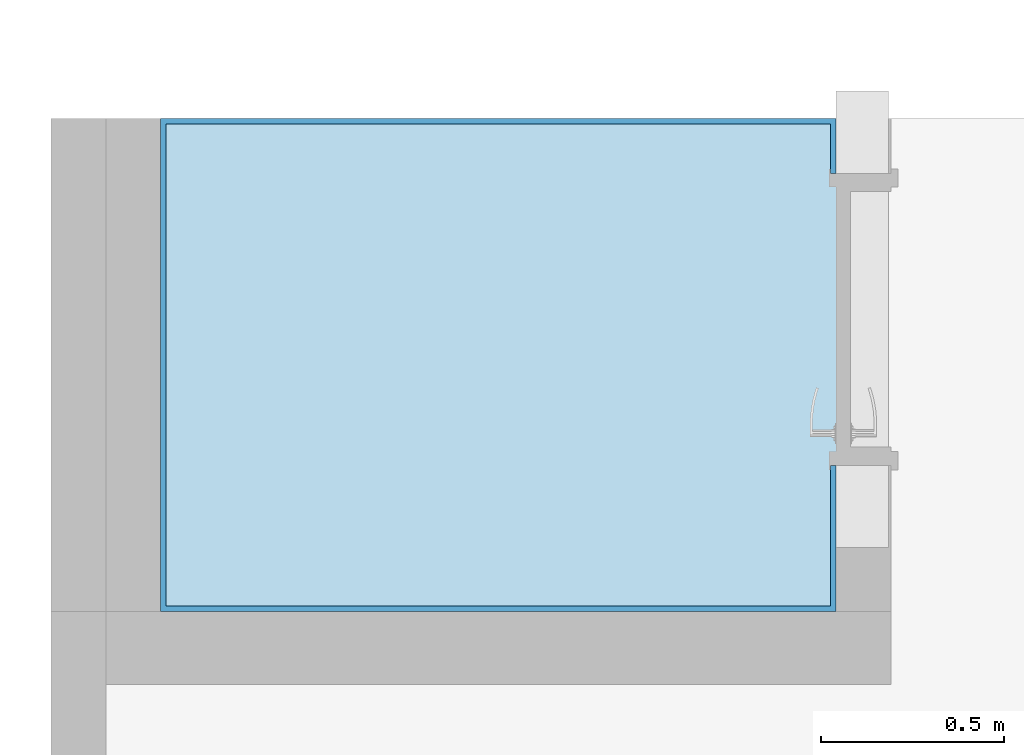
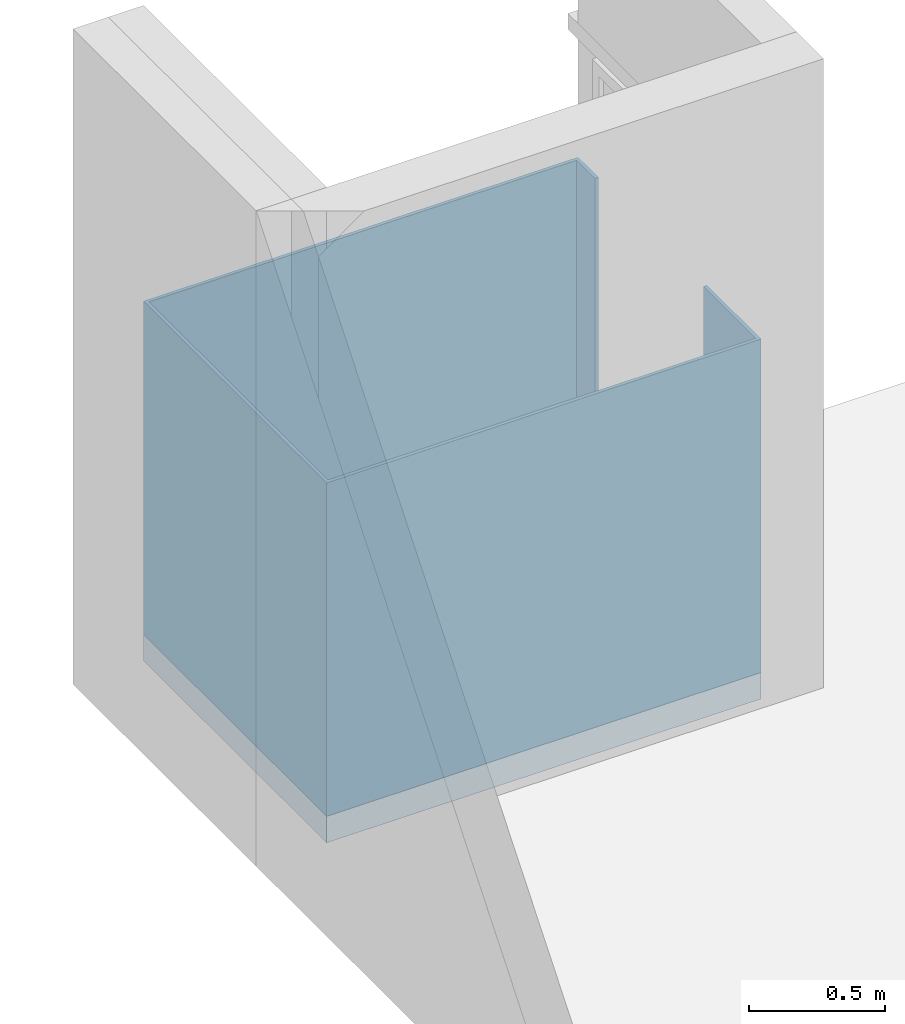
# One storey, part 3 of 9: 2 slabs.
"""IFC4 building model written with IfcOpenShell, lengths in millimetres."""

import ifcopenshell
import ifcopenshell.guid

model = None  # the IFC model being written
_history = None  # IfcOwnerHistory: only IFC2X3 demands one
_inside = {}  # id of a spatial element -> (the spatial element, [elements in it])
_under = {}  # id of a project, library or spatial element -> (it, [spatial elements below it])
_declared = {}  # id of a project -> (the project, [libraries it declares])
_typed = {}  # id of a type object -> (the type object, [elements of that type])
_made_of = {}  # id of a material, layer set ... -> (it, [elements and type objects made of it])


def new_model(schema):
    """Start an empty IFC model of exactly this schema.

    Asked for "IFC4X3", IfcOpenShell would pick the latest addendum, in which some entities
    have other attributes; the version numbers below select the first issue.
    IFC2X3 requires an IfcOwnerHistory on every rooted entity: one is made here for all.
    """
    global model, _history
    if schema == "IFC4X3":
        model = ifcopenshell.file(schema_version=(4, 3, 0, 0))
    else:
        model = ifcopenshell.file(schema=schema)
    _inside.clear()
    _under.clear()
    _declared.clear()
    _typed.clear()
    _made_of.clear()
    _history = None
    if model.schema == "IFC2X3":
        org = make("IfcOrganization", Name="unknown")
        user = make(
            "IfcPersonAndOrganization",
            ThePerson=make("IfcPerson", FamilyName="unknown"),
            TheOrganization=org,
        )
        app = make(
            "IfcApplication",
            ApplicationDeveloper=org,
            Version="unknown",
            ApplicationFullName="unknown",
            ApplicationIdentifier="unknown",
        )
        _history = make(
            "IfcOwnerHistory",
            OwningUser=user,
            OwningApplication=app,
            ChangeAction="ADDED",
            CreationDate=0,
        )
    return model


def make(cls, **values):
    """One entity of the class cls with the attributes given. An attribute that is None is left unset."""
    return model.create_entity(
        cls, **{name: value for name, value in values.items() if value is not None}
    )


def entity(cls, *values):
    """Any entity or typed value of the class cls, its attributes in the order of the schema. None: left unset."""
    e = model.create_entity(cls)
    for i, value in enumerate(values):
        if value is not None:
            e[i] = value
    return e


def rooted(cls, **values):
    """An entity with a GlobalId (a new one), such as an element, a storey or a relation."""
    return make(cls, GlobalId=ifcopenshell.guid.new(), OwnerHistory=_history, **values)


def si_unit(unit_type, name, prefix=None):
    """IfcSIUnit, for example si_unit("LENGTHUNIT", "METRE", prefix="MILLI")."""
    return make("IfcSIUnit", UnitType=unit_type, Prefix=prefix, Name=name)


def converted_unit(unit_type, name, factor, base, dimensions=None, offset=None):
    """IfcConversionBasedUnit, such as the inch: factor (a typed value) times the base unit."""
    return make(
        "IfcConversionBasedUnit"
        if offset is None
        else "IfcConversionBasedUnitWithOffset",
        ConversionOffset=offset,
        Dimensions=None
        if dimensions is None
        else entity("IfcDimensionalExponents", *dimensions),
        UnitType=unit_type,
        Name=name,
        ConversionFactor=make(
            "IfcMeasureWithUnit", ValueComponent=factor, UnitComponent=base
        ),
    )


def derived_unit(unit_type, elements):
    """IfcDerivedUnit: a product of units, each with its exponent."""
    return make(
        "IfcDerivedUnit",
        Elements=[
            make("IfcDerivedUnitElement", Unit=unit, Exponent=power)
            for unit, power in elements
        ],
        UnitType=unit_type,
    )


def assignment(units):
    """IfcUnitAssignment: the units of a project."""
    return None if units is None else make("IfcUnitAssignment", Units=units)


def point(xyz):
    """IfcCartesianPoint."""
    return None if xyz is None else make("IfcCartesianPoint", Coordinates=xyz)


def direction(xyz):
    """IfcDirection."""
    return None if xyz is None else make("IfcDirection", DirectionRatios=xyz)


def frame(location, z_axis=None, x_axis=None):
    """IfcAxis2Placement3D, a coordinate frame: its origin and axes. An axis left out is left unset."""
    return make(
        "IfcAxis2Placement3D",
        Location=point(location),
        Axis=direction(z_axis),
        RefDirection=direction(x_axis),
    )


def origin_with_axes():
    """The frame at (0, 0, 0) with the z axis (0, 0, 1) and the x axis (1, 0, 0) written out."""
    return frame((0.0, 0.0, 0.0), z_axis=(0.0, 0.0, 1.0), x_axis=(1.0, 0.0, 0.0))


def place(relative_to, where):
    """IfcLocalPlacement: puts the frame where relative to a parent placement (None: the world)."""
    return make(
        "IfcLocalPlacement", PlacementRelTo=relative_to, RelativePlacement=where
    )


def context(
    kind, dimensions, precision=None, world=None, true_north=None, identifier=None
):
    """IfcGeometricRepresentationContext, for example the 3D "Model" context."""
    return make(
        "IfcGeometricRepresentationContext",
        ContextIdentifier=identifier,
        ContextType=kind,
        CoordinateSpaceDimension=dimensions,
        Precision=precision,
        WorldCoordinateSystem=world,
        TrueNorth=true_north,
    )


def subcontext(parent, identifier, kind, view, scale=None):
    """IfcGeometricRepresentationSubContext, for example "Body" below "Model"."""
    return make(
        "IfcGeometricRepresentationSubContext",
        ContextIdentifier=identifier,
        ContextType=kind,
        ParentContext=parent,
        TargetScale=scale,
        TargetView=view,
    )


def project(units=None, contexts=None):
    """IfcProject with its units and contexts."""
    return rooted(
        "IfcProject",
        Name="project",
        RepresentationContexts=contexts,
        UnitsInContext=assignment(units),
    )


def spatial(cls, under=None, at=None, **own):
    """A site, building, storey or space (cls), placed at a placement, below another one or the project."""
    s = rooted(cls, ObjectPlacement=at, **own)
    if under is not None:
        _under.setdefault(under.id(), (under, []))[1].append(s)
    return s


def point_list(points):
    """IfcCartesianPointList2D or 3D."""
    cls = (
        "IfcCartesianPointList2D" if len(points[0]) == 2 else "IfcCartesianPointList3D"
    )
    return make(cls, CoordList=points)


def polygons(points, faces, closed=None, point_numbers=None):
    """IfcPolygonalFaceSet: a face is its outer loop, then its inner loops; points numbered from 1."""
    made = []
    for loops in faces:
        if len(loops) == 1:
            made.append(make("IfcIndexedPolygonalFace", CoordIndex=loops[0]))
        else:
            made.append(
                make(
                    "IfcIndexedPolygonalFaceWithVoids",
                    CoordIndex=loops[0],
                    InnerCoordIndices=loops[1:],
                )
            )
    return make(
        "IfcPolygonalFaceSet",
        Coordinates=point_list(points),
        Closed=closed,
        Faces=made,
        PnIndex=point_numbers,
    )


def shape(context_of_items, identifier, shape_type, items):
    """IfcShapeRepresentation: the items that make up one representation, for example the "Body"."""
    return make(
        "IfcShapeRepresentation",
        ContextOfItems=context_of_items,
        RepresentationIdentifier=identifier,
        RepresentationType=shape_type,
        Items=items,
    )


def material(Name=None, Category=None):
    """IfcMaterial."""
    return make("IfcMaterial", Name=Name, Category=Category)


def constituent(of_material, Name=None, Category=None, fraction=None):
    """IfcMaterialConstituent: one of the materials an element consists of."""
    return make(
        "IfcMaterialConstituent",
        Name=Name,
        Material=of_material,
        Fraction=fraction,
        Category=Category,
    )


def constituent_set(constituents=None, Name=None):
    """IfcMaterialConstituentSet."""
    return make(
        "IfcMaterialConstituentSet", Name=Name, MaterialConstituents=constituents
    )


def made_of(thing, what):
    """Note that an element or type object is made of a material, layer set ...; save() writes the relation."""
    if what is not None:
        _made_of.setdefault(what.id(), (what, []))[1].append(thing)
    return thing


def type_object(cls, material=None, **own):
    """A type object (cls), such as IfcWallType, which elements share."""
    return made_of(rooted(cls, **own), material)


def element(
    cls,
    number,
    at=None,
    inside=None,
    cuts=None,
    type_object=None,
    material=None,
    context=None,
    identifier="Body",
    shape_type=None,
    held_by="IfcProductDefinitionShape",
    body=None,
    shapes=None,
    **own,
):
    """One element of the class cls, such as IfcWall. Its Tag is "e" and its number.

    at: its placement. inside: the storey or other place that contains it. cuts: it is an
    opening in that element (IfcRelVoidsElement). A single representation is given by context,
    identifier, shape_type and body (its items); several are given by shapes. held_by: the class
    of the entity that holds the representations. save() writes the other relations.
    """
    e = rooted(cls, Tag="e%d" % number, ObjectPlacement=at, **own)
    if body is not None:
        shapes = [shape(context, identifier, shape_type, body)]
    if shapes is not None:
        e.Representation = make(held_by, Representations=shapes)
    if inside is not None:
        _inside.setdefault(inside.id(), (inside, []))[1].append(e)
    if cuts is not None:
        rooted(
            "IfcRelVoidsElement", RelatingBuildingElement=cuts, RelatedOpeningElement=e
        )
    if type_object is not None:
        _typed.setdefault(type_object.id(), (type_object, []))[1].append(e)
    return made_of(e, material)


def aggregate(whole, parts):
    """IfcRelAggregates: a whole, such as a stair, and the parts it consists of."""
    return rooted("IfcRelAggregates", RelatingObject=whole, RelatedObjects=parts)


def save(model, path):
    """Write the relations noted so far, then the file.

    IfcRelAggregates (storeys below a building ...), IfcRelContainedInSpatialStructure (elements
    in a storey), IfcRelDefinesByType, IfcRelAssociatesMaterial and IfcRelDeclares: one each for
    every whole, place, type object, material and project.
    """
    for whole, parts in _under.values():
        aggregate(whole, parts)
    for where, things in _inside.values():
        rooted(
            "IfcRelContainedInSpatialStructure",
            RelatedElements=things,
            RelatingStructure=where,
        )
    for kind, things in _typed.values():
        rooted("IfcRelDefinesByType", RelatedObjects=things, RelatingType=kind)
    for what, things in _made_of.values():
        rooted("IfcRelAssociatesMaterial", RelatedObjects=things, RelatingMaterial=what)
    for by, libraries in _declared.values():
        rooted("IfcRelDeclares", RelatingContext=by, RelatedDefinitions=libraries)
    model.write(path)


model = new_model("IFC4")

# Units and contexts
model_context = context("Model", 3, precision=0.01, world=origin_with_axes(), true_north=direction((0.0, 1.0)))
body_context = subcontext(model_context, "Body", "Model", "MODEL_VIEW")
ifc_project = project(units=[si_unit("LENGTHUNIT", "METRE", prefix="MILLI"), si_unit("AREAUNIT", "SQUARE_METRE"), si_unit("VOLUMEUNIT", "CUBIC_METRE"), converted_unit("PLANEANGLEUNIT", "DEGREE", entity("IfcPlaneAngleMeasure", 0.0174532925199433), si_unit("PLANEANGLEUNIT", "RADIAN"), dimensions=[0, 0, 0, 0, 0, 0, 0]), converted_unit("TIMEUNIT", "Year", entity("IfcTimeMeasure", 31557600.0), si_unit("TIMEUNIT", "SECOND"), dimensions=[0, 0, 1, 0, 0, 0, 0]), si_unit("MASSUNIT", "GRAM", prefix="KILO"), si_unit("THERMODYNAMICTEMPERATUREUNIT", "DEGREE_CELSIUS"), si_unit("LUMINOUSINTENSITYUNIT", "LUMEN"), si_unit("ENERGYUNIT", "JOULE", prefix="MEGA"), derived_unit("THERMALCONDUCTANCEUNIT", [(si_unit("POWERUNIT", "WATT"), 1), (si_unit("LENGTHUNIT", "METRE"), -1), (si_unit("THERMODYNAMICTEMPERATUREUNIT", "KELVIN"), -1)]), derived_unit("SPECIFICHEATCAPACITYUNIT", [(si_unit("ENERGYUNIT", "JOULE"), 1), (si_unit("MASSUNIT", "GRAM", prefix="KILO"), -1), (si_unit("THERMODYNAMICTEMPERATUREUNIT", "KELVIN"), -1)]), derived_unit("MASSDENSITYUNIT", [(si_unit("MASSUNIT", "GRAM", prefix="KILO"), 1), (si_unit("VOLUMEUNIT", "CUBIC_METRE"), -1)])], contexts=[model_context])

# Site, building, storey
site_placement = place(None, origin_with_axes())
site = spatial("IfcSite", under=ifc_project, at=site_placement, Name="Exteriér", CompositionType="ELEMENT")
building_placement = place(site_placement, origin_with_axes())
building = spatial("IfcBuilding", under=site, at=building_placement, Name="Univerzitní lezecké centrum", CompositionType="ELEMENT")
storey_placement = place(building_placement, origin_with_axes())
storey = spatial("IfcBuildingStorey", under=building, at=storey_placement, Name="1.NP", CompositionType="ELEMENT", Elevation=0.0)

# Slabs
ifc_material_1 = material(Name="Keramická dlažba 20x40 - obklad")
slab_type_1 = type_object("IfcSlabType", Name="Keramická dlažba 20x40 - obklad 1500", PredefinedType="FLOOR")
slab_1_placement = place(storey_placement, frame((-4950.148341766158, 3050.000000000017, 1499.999999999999), z_axis=(0.0, 0.0, 1.0), x_axis=(1.0, 0.0, 0.0)))
element("IfcSlab", 1, at=slab_1_placement, inside=storey, type_object=slab_type_1, material=ifc_material_1, PredefinedType="FLOOR", context=body_context, shape_type="Tessellation", body=[
    polygons([(0.0, 0.0, 0.0), (0.0, 0.0, -1499.999999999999), (1849.739473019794, 0.0, -1499.999999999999), (1849.739473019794, 0.0, 0.0), (0.0, 1349.999999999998, 0.0), (0.0, 1349.999999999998, -1499.999999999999), (1849.739473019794, 1349.999999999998, -1499.999999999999), (1849.739473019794, 1200.0, -1499.999999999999), (1834.739472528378, 1200.0, -1499.999999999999), (1834.739472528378, 1335.000011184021, -1499.999999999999), (15.00000049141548, 1335.000011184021, -1499.999999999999), (15.00000049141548, 15.00000049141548, -1499.999999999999), (1834.739472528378, 15.00000049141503, -1499.999999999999), (1834.739472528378, 399.9999999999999, -1499.999999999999), (1849.739473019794, 399.9999999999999, -1499.999999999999), (1849.739473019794, 399.9999999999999, 0.0), (1834.739472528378, 399.9999999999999, 0.0), (1834.739472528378, 15.00000049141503, 0.0), (15.00000049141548, 15.00000049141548, 0.0), (15.00000049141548, 1335.000011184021, 0.0), (1834.739472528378, 1335.000011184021, 0.0), (1834.739472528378, 1200.0, 0.0), (1849.739473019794, 1200.0, 0.0), (1849.739473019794, 1349.999999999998, 0.0)], [[[1, 2, 3, 4]], [[5, 6, 2, 1]], [[3, 2, 6, 7, 8, 9, 10, 11, 12, 13, 14, 15]], [[4, 3, 15, 16]], [[5, 1, 4, 16, 17, 18, 19, 20, 21, 22, 23, 24]], [[24, 7, 6, 5]], [[23, 8, 7, 24]], [[22, 9, 8, 23]], [[21, 10, 9, 22]], [[20, 11, 10, 21]], [[19, 12, 11, 20]], [[18, 13, 12, 19]], [[17, 14, 13, 18]], [[16, 15, 14, 17]]], closed=True),
])
ifc_material_2 = material(Name="Keramická dlažba 30x30")
ifc_constituent_1 = constituent(ifc_material_2, Name="Keramická dlažba 30x30")
ifc_material_3 = material(Name="Lepicí tmel na dlažbu a obklady")
ifc_constituent_2 = constituent(ifc_material_3, Name="Lepicí tmel na dlažbu a obklady")
ifc_material_4 = material(Name="Samonivelační stěrková hmota")
ifc_constituent_3 = constituent(ifc_material_4, Name="Samonivelační stěrková hmota")
ifc_material_5 = material(Name="Betonová mazanina")
ifc_constituent_4 = constituent(ifc_material_5, Name="Betonová mazanina")
ifc_material_6 = material(Name="PE fólie")
ifc_constituent_5 = constituent(ifc_material_6, Name="PE fólie")
ifc_material_7 = material(Name="Akustická izolace - EPS")
ifc_constituent_6 = constituent(ifc_material_7, Name="Akustická izolace - EPS")
ifc_constituent_set = constituent_set(constituents=[ifc_constituent_1, ifc_constituent_2, ifc_constituent_3, ifc_constituent_4, ifc_constituent_5, ifc_constituent_6], Name="!P04 Podlaha v patře - keramická dlažba 30x30")
slab_type_2 = type_object("IfcSlabType", Name="!P04 Podlaha v patře - keramická dlažba 30x30 120", PredefinedType="FLOOR")
slab_2_placement = place(storey_placement, frame((-4950.148351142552, 4399.999988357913, 0.0), z_axis=(0.0, 0.0, 1.0), x_axis=(1.0, 0.0, 0.0)))
element("IfcSlab", 2, at=slab_2_placement, inside=storey, type_object=slab_type_2, material=ifc_constituent_set, Name="P03", PredefinedType="FLOOR", context=body_context, shape_type="Tessellation", body=[
    polygons([(0.0, 0.0, -9.999999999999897), (0.0, -1349.999988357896, -9.999999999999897), (0.0, -1349.999988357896, 0.0), (0.0, 0.0, 0.0), (1849.739495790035, 0.0, -9.999999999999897), (1849.739495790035, -150.0000018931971, -9.999999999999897), (1924.739482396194, -150.0000018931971, -9.999999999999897), (1924.739482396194, -949.9999928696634, -9.999999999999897), (1849.739495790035, -949.9999928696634, -9.999999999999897), (1849.739495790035, -1349.999988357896, -9.999999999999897), (1849.739495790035, -1349.999988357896, 0.0), (1849.739495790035, 0.0, 0.0), (1849.739495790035, -949.9999928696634, 0.0), (1924.739482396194, -949.9999928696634, 0.0), (1924.739482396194, -150.0000018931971, 0.0), (1849.739495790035, -150.0000018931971, 0.0)], [[[1, 2, 3, 4]], [[2, 1, 5, 6, 7, 8, 9, 10]], [[2, 10, 11, 3]], [[12, 4, 3, 11, 13, 14, 15, 16]], [[5, 1, 4, 12]], [[6, 5, 12, 16]], [[7, 6, 16, 15]], [[8, 7, 15, 14]], [[9, 8, 14, 13]], [[10, 9, 13, 11]]], closed=True),
    polygons([(0.0, 0.0, -13.00000000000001), (0.0, -1349.999988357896, -13.00000000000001), (0.0, -1349.999988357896, -9.999999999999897), (0.0, 0.0, -9.999999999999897), (1849.739495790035, 0.0, -13.00000000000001), (1849.739495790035, -150.0000018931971, -13.00000000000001), (1924.739482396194, -150.0000018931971, -13.00000000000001), (1924.739482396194, -949.9999928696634, -13.00000000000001), (1849.739495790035, -949.9999928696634, -13.00000000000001), (1849.739495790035, -1349.999988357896, -13.00000000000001), (1849.739495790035, -1349.999988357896, -9.999999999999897), (1849.739495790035, 0.0, -9.999999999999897), (1849.739495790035, -949.9999928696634, -9.999999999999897), (1924.739482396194, -949.9999928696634, -9.999999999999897), (1924.739482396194, -150.0000018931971, -9.999999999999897), (1849.739495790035, -150.0000018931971, -9.999999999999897)], [[[1, 2, 3, 4]], [[2, 1, 5, 6, 7, 8, 9, 10]], [[2, 10, 11, 3]], [[12, 4, 3, 11, 13, 14, 15, 16]], [[5, 1, 4, 12]], [[6, 5, 12, 16]], [[7, 6, 16, 15]], [[8, 7, 15, 14]], [[9, 8, 14, 13]], [[10, 9, 13, 11]]], closed=True),
    polygons([(0.0, 0.0, -15.9999999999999), (0.0, -1349.999988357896, -15.9999999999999), (0.0, -1349.999988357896, -13.00000000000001), (0.0, 0.0, -13.00000000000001), (1849.739495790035, 0.0, -15.9999999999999), (1849.739495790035, -150.0000018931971, -15.9999999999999), (1924.739482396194, -150.0000018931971, -15.9999999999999), (1924.739482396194, -949.9999928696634, -15.9999999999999), (1849.739495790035, -949.9999928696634, -15.9999999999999), (1849.739495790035, -1349.999988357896, -15.9999999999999), (1849.739495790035, -1349.999988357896, -13.00000000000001), (1849.739495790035, 0.0, -13.00000000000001), (1849.739495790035, -949.9999928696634, -13.00000000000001), (1924.739482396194, -949.9999928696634, -13.00000000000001), (1924.739482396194, -150.0000018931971, -13.00000000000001), (1849.739495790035, -150.0000018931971, -13.00000000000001)], [[[1, 2, 3, 4]], [[2, 1, 5, 6, 7, 8, 9, 10]], [[2, 10, 11, 3]], [[12, 4, 3, 11, 13, 14, 15, 16]], [[5, 1, 4, 12]], [[6, 5, 12, 16]], [[7, 6, 16, 15]], [[8, 7, 15, 14]], [[9, 8, 14, 13]], [[10, 9, 13, 11]]], closed=True),
    polygons([(0.0, 0.0, -79.00000000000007), (0.0, -1349.999988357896, -79.00000000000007), (0.0, -1349.999988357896, -15.9999999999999), (0.0, 0.0, -15.9999999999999), (1849.739495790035, 0.0, -79.00000000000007), (1849.739495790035, -150.0000018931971, -79.00000000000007), (1924.739482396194, -150.0000018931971, -79.00000000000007), (1924.739482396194, -949.9999928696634, -79.00000000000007), (1849.739495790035, -949.9999928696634, -79.00000000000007), (1849.739495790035, -1349.999988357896, -79.00000000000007), (1849.739495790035, -1349.999988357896, -15.9999999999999), (1849.739495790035, 0.0, -15.9999999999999), (1849.739495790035, -949.9999928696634, -15.9999999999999), (1924.739482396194, -949.9999928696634, -15.9999999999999), (1924.739482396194, -150.0000018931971, -15.9999999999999), (1849.739495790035, -150.0000018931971, -15.9999999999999)], [[[1, 2, 3, 4]], [[2, 1, 5, 6, 7, 8, 9, 10]], [[2, 10, 11, 3]], [[12, 4, 3, 11, 13, 14, 15, 16]], [[5, 1, 4, 12]], [[6, 5, 12, 16]], [[7, 6, 16, 15]], [[8, 7, 15, 14]], [[9, 8, 14, 13]], [[10, 9, 13, 11]]], closed=True),
    polygons([(0.0, 0.0, -79.50000000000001), (0.0, -1349.999988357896, -79.50000000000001), (0.0, -1349.999988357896, -79.00000000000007), (0.0, 0.0, -79.00000000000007), (1849.739495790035, 0.0, -79.50000000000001), (1849.739495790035, -150.0000018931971, -79.50000000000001), (1924.739482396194, -150.0000018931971, -79.50000000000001), (1924.739482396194, -949.9999928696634, -79.50000000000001), (1849.739495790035, -949.9999928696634, -79.50000000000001), (1849.739495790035, -1349.999988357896, -79.50000000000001), (1849.739495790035, -1349.999988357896, -79.00000000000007), (1849.739495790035, 0.0, -79.00000000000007), (1849.739495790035, -949.9999928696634, -79.00000000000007), (1924.739482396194, -949.9999928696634, -79.00000000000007), (1924.739482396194, -150.0000018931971, -79.00000000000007), (1849.739495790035, -150.0000018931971, -79.00000000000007)], [[[1, 2, 3, 4]], [[2, 1, 5, 6, 7, 8, 9, 10]], [[2, 10, 11, 3]], [[12, 4, 3, 11, 13, 14, 15, 16]], [[5, 1, 4, 12]], [[6, 5, 12, 16]], [[7, 6, 16, 15]], [[8, 7, 15, 14]], [[9, 8, 14, 13]], [[10, 9, 13, 11]]], closed=True),
    polygons([(0.0, 0.0, -79.50000000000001), (0.0, 0.0, -119.5000000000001), (0.0, -1349.999988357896, -119.5000000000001), (0.0, -1349.999988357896, -79.50000000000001), (1849.739495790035, 0.0, -79.50000000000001), (1849.739495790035, 0.0, -119.5000000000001), (1849.739495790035, -150.0000018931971, -119.5000000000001), (1924.739482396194, -150.0000018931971, -119.5000000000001), (1924.739482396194, -949.9999928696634, -119.5000000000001), (1849.739495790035, -949.9999928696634, -119.5000000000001), (1849.739495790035, -1349.999988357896, -119.5000000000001), (1849.739495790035, -1349.999988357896, -79.50000000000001), (1849.739495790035, -949.9999928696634, -79.50000000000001), (1924.739482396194, -949.9999928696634, -79.50000000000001), (1924.739482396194, -150.0000018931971, -79.50000000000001), (1849.739495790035, -150.0000018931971, -79.50000000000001)], [[[1, 2, 3, 4]], [[5, 6, 2, 1]], [[3, 2, 6, 7, 8, 9, 10, 11]], [[4, 3, 11, 12]], [[5, 1, 4, 12, 13, 14, 15, 16]], [[16, 7, 6, 5]], [[15, 8, 7, 16]], [[14, 9, 8, 15]], [[13, 10, 9, 14]], [[12, 11, 10, 13]]], closed=True),
])

save(model, "model.ifc")
